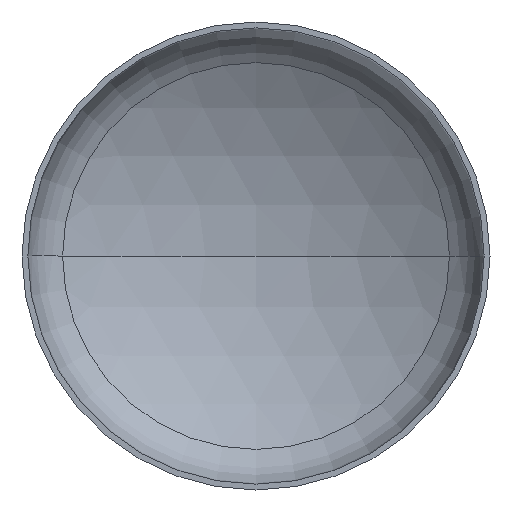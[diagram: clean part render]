
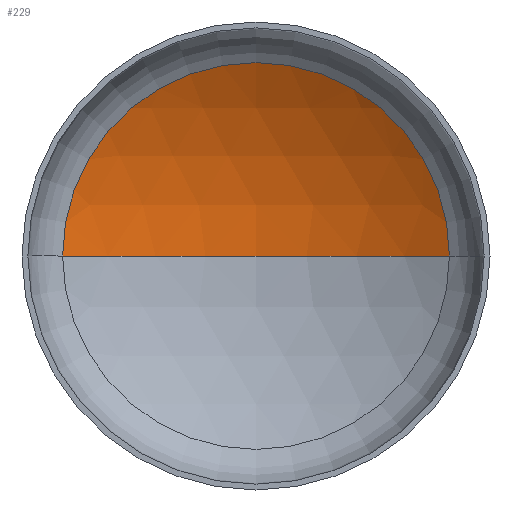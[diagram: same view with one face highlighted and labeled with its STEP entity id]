
A CAD part, front view. The second image highlights one B-rep face of the part: STEP entity #229.
In plain terms, the highlighted spherical face has radius 2240 mm.
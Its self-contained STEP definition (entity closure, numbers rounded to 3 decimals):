
#3 = VERTEX_POINT ( 'NONE', #281 ) ;
#9 = EDGE_LOOP ( 'NONE', ( #26, #132, #98 ) ) ;
#16 = DIRECTION ( 'NONE',  ( 1., 0., 0. ) ) ;
#22 = DIRECTION ( 'NONE',  ( 0., -1., 0. ) ) ;
#26 = ORIENTED_EDGE ( 'NONE', *, *, #149, .F. ) ;
#31 = VERTEX_POINT ( 'NONE', #302 ) ;
#36 = AXIS2_PLACEMENT_3D ( 'NONE', #46, #178, #82 ) ;
#41 = CARTESIAN_POINT ( 'NONE',  ( 0., 478.184, 0. ) ) ;
#46 = CARTESIAN_POINT ( 'NONE',  ( 0., -1439.798, 0. ) ) ;
#67 = AXIS2_PLACEMENT_3D ( 'NONE', #205, #206, #224 ) ;
#70 = AXIS2_PLACEMENT_3D ( 'NONE', #176, #319, #342 ) ;
#73 = AXIS2_PLACEMENT_3D ( 'NONE', #41, #22, #16 ) ;
#78 = VERTEX_POINT ( 'NONE', #375 ) ;
#82 = DIRECTION ( 'NONE',  ( -1., 0., 0. ) ) ;
#93 = FACE_OUTER_BOUND ( 'NONE', #9, .T. ) ;
#98 = ORIENTED_EDGE ( 'NONE', *, *, #147, .T. ) ;
#132 = ORIENTED_EDGE ( 'NONE', *, *, #148, .T. ) ;
#144 = CIRCLE ( 'NONE', #73, 1157.127 ) ;
#147 = EDGE_CURVE ( 'NONE', #3, #31, #144, .T. ) ;
#148 = EDGE_CURVE ( 'NONE', #78, #3, #381, .T. ) ;
#149 = EDGE_CURVE ( 'NONE', #78, #31, #253, .T. ) ;
#176 = CARTESIAN_POINT ( 'NONE',  ( 0., -1439.798, 0. ) ) ;
#178 = DIRECTION ( 'NONE',  ( 0., 0., -1. ) ) ;
#205 = CARTESIAN_POINT ( 'NONE',  ( 0., -1439.798, 0. ) ) ;
#206 = DIRECTION ( 'NONE',  ( 0., 0., 1. ) ) ;
#224 = DIRECTION ( 'NONE',  ( 1., 0., 0. ) ) ;
#229 = ADVANCED_FACE ( 'NONE', ( #93 ), #307, .F. ) ;
#253 = CIRCLE ( 'NONE', #67, 2240. ) ;
#281 = CARTESIAN_POINT ( 'NONE',  ( 1157.127, 478.184, 0. ) ) ;
#302 = CARTESIAN_POINT ( 'NONE',  ( -1157.127, 478.184, 0. ) ) ;
#307 = SPHERICAL_SURFACE ( 'NONE', #36, 2240. ) ;
#319 = DIRECTION ( 'NONE',  ( 0., 0., -1. ) ) ;
#342 = DIRECTION ( 'NONE',  ( -1., 0., 0. ) ) ;
#375 = CARTESIAN_POINT ( 'NONE',  ( 0., 800.202, 0. ) ) ;
#381 = CIRCLE ( 'NONE', #70, 2240. ) ;
